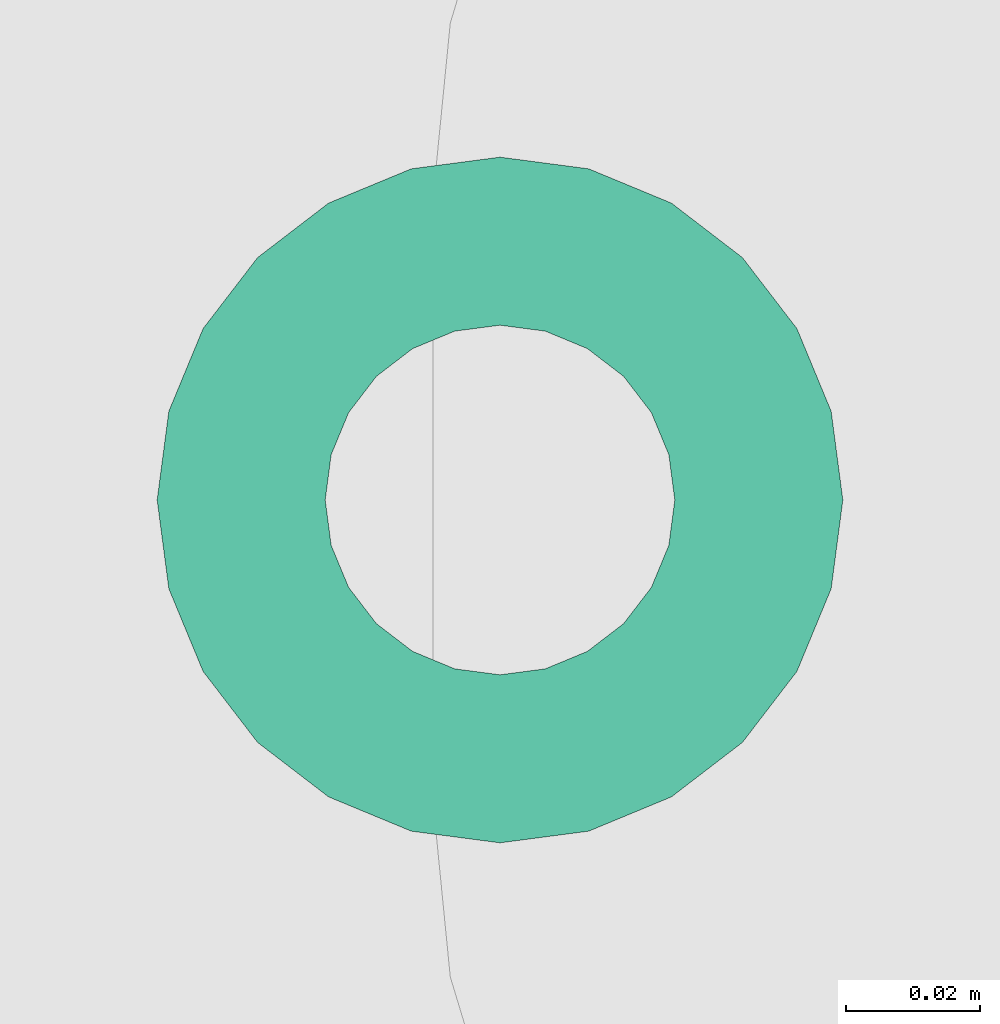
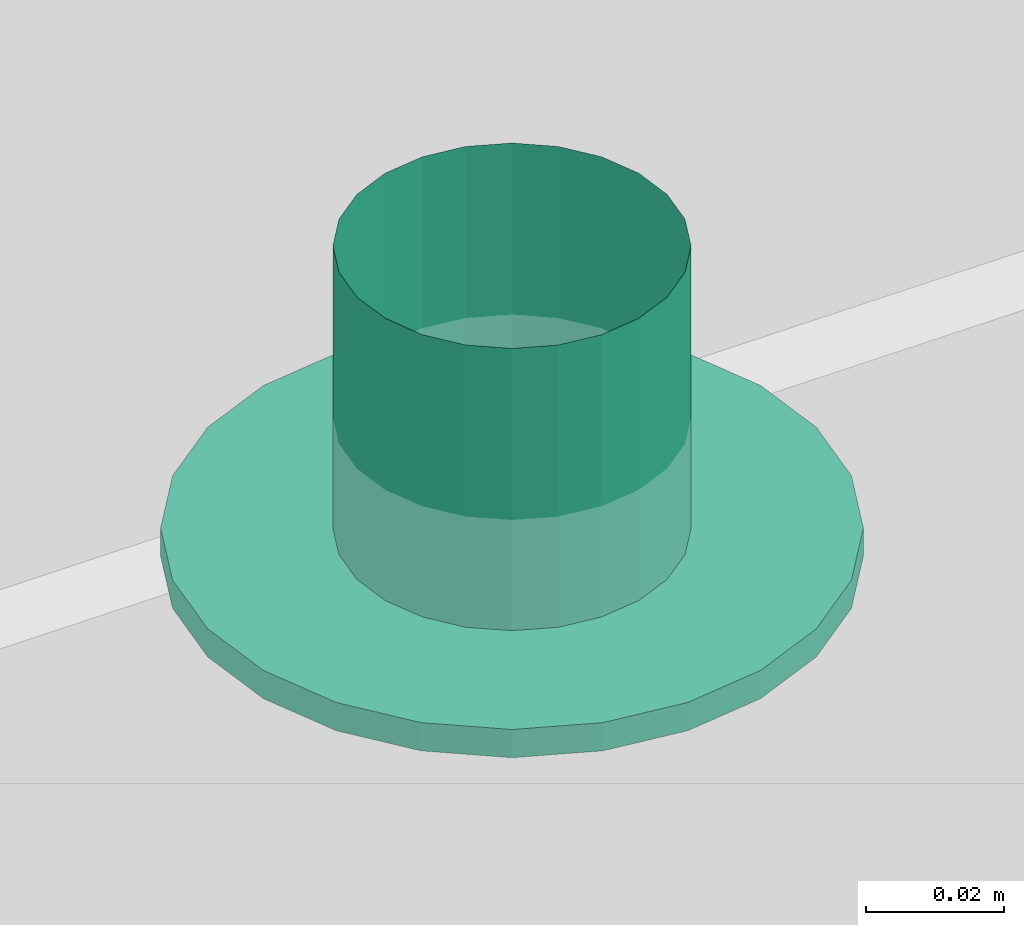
# One storey, part 261 of 347: 1 flow terminal.
"""IFC2X3 building model written with IfcOpenShell, lengths in millimetres."""

import ifcopenshell
import ifcopenshell.guid

model = None  # the IFC model being written
_history = None  # IfcOwnerHistory: only IFC2X3 demands one
_inside = {}  # id of a spatial element -> (the spatial element, [elements in it])
_under = {}  # id of a project, library or spatial element -> (it, [spatial elements below it])
_declared = {}  # id of a project -> (the project, [libraries it declares])
_typed = {}  # id of a type object -> (the type object, [elements of that type])
_made_of = {}  # id of a material, layer set ... -> (it, [elements and type objects made of it])


def new_model(schema):
    """Start an empty IFC model of exactly this schema.

    Asked for "IFC4X3", IfcOpenShell would pick the latest addendum, in which some entities
    have other attributes; the version numbers below select the first issue.
    IFC2X3 requires an IfcOwnerHistory on every rooted entity: one is made here for all.
    """
    global model, _history
    if schema == "IFC4X3":
        model = ifcopenshell.file(schema_version=(4, 3, 0, 0))
    else:
        model = ifcopenshell.file(schema=schema)
    _inside.clear()
    _under.clear()
    _declared.clear()
    _typed.clear()
    _made_of.clear()
    _history = None
    if model.schema == "IFC2X3":
        org = make("IfcOrganization", Name="unknown")
        user = make(
            "IfcPersonAndOrganization",
            ThePerson=make("IfcPerson", FamilyName="unknown"),
            TheOrganization=org,
        )
        app = make(
            "IfcApplication",
            ApplicationDeveloper=org,
            Version="unknown",
            ApplicationFullName="unknown",
            ApplicationIdentifier="unknown",
        )
        _history = make(
            "IfcOwnerHistory",
            OwningUser=user,
            OwningApplication=app,
            ChangeAction="ADDED",
            CreationDate=0,
        )
    return model


def make(cls, **values):
    """One entity of the class cls with the attributes given. An attribute that is None is left unset."""
    return model.create_entity(
        cls, **{name: value for name, value in values.items() if value is not None}
    )


def entity(cls, *values):
    """Any entity or typed value of the class cls, its attributes in the order of the schema. None: left unset."""
    e = model.create_entity(cls)
    for i, value in enumerate(values):
        if value is not None:
            e[i] = value
    return e


def rooted(cls, **values):
    """An entity with a GlobalId (a new one), such as an element, a storey or a relation."""
    return make(cls, GlobalId=ifcopenshell.guid.new(), OwnerHistory=_history, **values)


def si_unit(unit_type, name, prefix=None):
    """IfcSIUnit, for example si_unit("LENGTHUNIT", "METRE", prefix="MILLI")."""
    return make("IfcSIUnit", UnitType=unit_type, Prefix=prefix, Name=name)


def converted_unit(unit_type, name, factor, base, dimensions=None, offset=None):
    """IfcConversionBasedUnit, such as the inch: factor (a typed value) times the base unit."""
    return make(
        "IfcConversionBasedUnit"
        if offset is None
        else "IfcConversionBasedUnitWithOffset",
        ConversionOffset=offset,
        Dimensions=None
        if dimensions is None
        else entity("IfcDimensionalExponents", *dimensions),
        UnitType=unit_type,
        Name=name,
        ConversionFactor=make(
            "IfcMeasureWithUnit", ValueComponent=factor, UnitComponent=base
        ),
    )


def derived_unit(unit_type, elements):
    """IfcDerivedUnit: a product of units, each with its exponent."""
    return make(
        "IfcDerivedUnit",
        Elements=[
            make("IfcDerivedUnitElement", Unit=unit, Exponent=power)
            for unit, power in elements
        ],
        UnitType=unit_type,
    )


def money_unit(currency):
    """IfcMonetaryUnit."""
    return make("IfcMonetaryUnit", Currency=currency)


def assignment(units):
    """IfcUnitAssignment: the units of a project."""
    return None if units is None else make("IfcUnitAssignment", Units=units)


def point(xyz):
    """IfcCartesianPoint."""
    return None if xyz is None else make("IfcCartesianPoint", Coordinates=xyz)


def direction(xyz):
    """IfcDirection."""
    return None if xyz is None else make("IfcDirection", DirectionRatios=xyz)


def frame(location, z_axis=None, x_axis=None):
    """IfcAxis2Placement3D, a coordinate frame: its origin and axes. An axis left out is left unset."""
    return make(
        "IfcAxis2Placement3D",
        Location=point(location),
        Axis=direction(z_axis),
        RefDirection=direction(x_axis),
    )


def origin_with_axes():
    """The frame at (0, 0, 0) with the z axis (0, 0, 1) and the x axis (1, 0, 0) written out."""
    return frame((0.0, 0.0, 0.0), z_axis=(0.0, 0.0, 1.0), x_axis=(1.0, 0.0, 0.0))


def place(relative_to, where):
    """IfcLocalPlacement: puts the frame where relative to a parent placement (None: the world)."""
    return make(
        "IfcLocalPlacement", PlacementRelTo=relative_to, RelativePlacement=where
    )


def context(
    kind, dimensions, precision=None, world=None, true_north=None, identifier=None
):
    """IfcGeometricRepresentationContext, for example the 3D "Model" context."""
    return make(
        "IfcGeometricRepresentationContext",
        ContextIdentifier=identifier,
        ContextType=kind,
        CoordinateSpaceDimension=dimensions,
        Precision=precision,
        WorldCoordinateSystem=world,
        TrueNorth=true_north,
    )


def subcontext(parent, identifier, kind, view, scale=None):
    """IfcGeometricRepresentationSubContext, for example "Body" below "Model"."""
    return make(
        "IfcGeometricRepresentationSubContext",
        ContextIdentifier=identifier,
        ContextType=kind,
        ParentContext=parent,
        TargetScale=scale,
        TargetView=view,
    )


def project(units=None, contexts=None):
    """IfcProject with its units and contexts."""
    return rooted(
        "IfcProject",
        Name="project",
        RepresentationContexts=contexts,
        UnitsInContext=assignment(units),
    )


def spatial(cls, under=None, at=None, **own):
    """A site, building, storey or space (cls), placed at a placement, below another one or the project."""
    s = rooted(cls, ObjectPlacement=at, **own)
    if under is not None:
        _under.setdefault(under.id(), (under, []))[1].append(s)
    return s


def faces_of(points, faces, orient=None, outer=None):
    """IfcFace entities. A face is a list of loops; a loop is a list of indices into points, from 0.

    orient and outer hold one flag for each loop. By default every Orientation is true, the
    first loop of a face is its IfcFaceOuterBound and the others are IfcFaceBound.
    """
    made = []
    for i, loops in enumerate(faces):
        bounds = []
        for j, loop in enumerate(loops):
            is_outer = j == 0 if outer is None else outer[i][j]
            bounds.append(
                make(
                    "IfcFaceOuterBound" if is_outer else "IfcFaceBound",
                    Bound=make("IfcPolyLoop", Polygon=[points[k] for k in loop]),
                    Orientation=True if orient is None else orient[i][j],
                )
            )
        made.append(make("IfcFace", Bounds=bounds))
    return made


def open_shell(faces, orient=None, outer=None):
    """The faces of one IfcOpenShell. surface_model builds it on its shared points."""
    return ("IfcOpenShell", faces, orient, outer)


def faceted_brep(points, faces, orient=None, outer=None, voids=None):
    """IfcFacetedBrep: a solid bounded by flat faces; with voids (closed shells), ...WithVoids."""
    shared = [point(p) for p in points]
    hull = make("IfcClosedShell", CfsFaces=faces_of(shared, faces, orient, outer))
    if voids is None:
        return make("IfcFacetedBrep", Outer=hull)
    return make(
        "IfcFacetedBrepWithVoids",
        Outer=hull,
        Voids=[
            make(cls, CfsFaces=faces_of(shared, fs, o, b)) for cls, fs, o, b in voids
        ],
    )


def surface_model(cls, points, shells):
    """IfcFaceBasedSurfaceModel or IfcShellBasedSurfaceModel (cls): surfaces that need not close."""
    shared = [point(p) for p in points]
    made = [make(c, CfsFaces=faces_of(shared, fs, o, b)) for c, fs, o, b in shells]
    if cls == "IfcFaceBasedSurfaceModel":
        return make(cls, FbsmFaces=made)
    return make(cls, SbsmBoundary=made)


def shape(context_of_items, identifier, shape_type, items):
    """IfcShapeRepresentation: the items that make up one representation, for example the "Body"."""
    return make(
        "IfcShapeRepresentation",
        ContextOfItems=context_of_items,
        RepresentationIdentifier=identifier,
        RepresentationType=shape_type,
        Items=items,
    )


def source(mapping_origin, context_of_items, identifier, shape_type, items):
    """IfcRepresentationMap: a shape defined once, which mapped items show again and again."""
    return make(
        "IfcRepresentationMap",
        MappingOrigin=mapping_origin,
        MappedRepresentation=shape(context_of_items, identifier, shape_type, items),
    )


def transform(
    local_origin,
    x_axis=None,
    y_axis=None,
    z_axis=None,
    scale=None,
    scale2=None,
    scale3=None,
    uniform=True,
):
    """IfcCartesianTransformationOperator3D, or its non-uniform kind. x_axis, y_axis, z_axis: its Axis1, 2, 3."""
    if uniform:
        return make(
            "IfcCartesianTransformationOperator3D",
            Axis1=direction(x_axis),
            Axis2=direction(y_axis),
            LocalOrigin=point(local_origin),
            Scale=scale,
            Axis3=direction(z_axis),
        )
    return make(
        "IfcCartesianTransformationOperator3DnonUniform",
        Axis1=direction(x_axis),
        Axis2=direction(y_axis),
        LocalOrigin=point(local_origin),
        Scale=scale,
        Axis3=direction(z_axis),
        Scale2=scale2,
        Scale3=scale3,
    )


def mapped(mapping_source, mapping_target):
    """IfcMappedItem: shows the shape of a source again, moved by a transform."""
    return make(
        "IfcMappedItem", MappingSource=mapping_source, MappingTarget=mapping_target
    )


def made_of(thing, what):
    """Note that an element or type object is made of a material, layer set ...; save() writes the relation."""
    if what is not None:
        _made_of.setdefault(what.id(), (what, []))[1].append(thing)
    return thing


def type_object(cls, material=None, **own):
    """A type object (cls), such as IfcWallType, which elements share."""
    return made_of(rooted(cls, **own), material)


def type_shapes(of_type, sources):
    """Give a type object the sources (RepresentationMaps) that its elements show as mapped items."""
    of_type.RepresentationMaps = sources


def element(
    cls,
    number,
    at=None,
    inside=None,
    cuts=None,
    type_object=None,
    material=None,
    context=None,
    identifier="Body",
    shape_type=None,
    held_by="IfcProductDefinitionShape",
    body=None,
    shapes=None,
    **own,
):
    """One element of the class cls, such as IfcWall. Its Tag is "e" and its number.

    at: its placement. inside: the storey or other place that contains it. cuts: it is an
    opening in that element (IfcRelVoidsElement). A single representation is given by context,
    identifier, shape_type and body (its items); several are given by shapes. held_by: the class
    of the entity that holds the representations. save() writes the other relations.
    """
    e = rooted(cls, Tag="e%d" % number, ObjectPlacement=at, **own)
    if body is not None:
        shapes = [shape(context, identifier, shape_type, body)]
    if shapes is not None:
        e.Representation = make(held_by, Representations=shapes)
    if inside is not None:
        _inside.setdefault(inside.id(), (inside, []))[1].append(e)
    if cuts is not None:
        rooted(
            "IfcRelVoidsElement", RelatingBuildingElement=cuts, RelatedOpeningElement=e
        )
    if type_object is not None:
        _typed.setdefault(type_object.id(), (type_object, []))[1].append(e)
    return made_of(e, material)


def aggregate(whole, parts):
    """IfcRelAggregates: a whole, such as a stair, and the parts it consists of."""
    return rooted("IfcRelAggregates", RelatingObject=whole, RelatedObjects=parts)


def save(model, path):
    """Write the relations noted so far, then the file.

    IfcRelAggregates (storeys below a building ...), IfcRelContainedInSpatialStructure (elements
    in a storey), IfcRelDefinesByType, IfcRelAssociatesMaterial and IfcRelDeclares: one each for
    every whole, place, type object, material and project.
    """
    for whole, parts in _under.values():
        aggregate(whole, parts)
    for where, things in _inside.values():
        rooted(
            "IfcRelContainedInSpatialStructure",
            RelatedElements=things,
            RelatingStructure=where,
        )
    for kind, things in _typed.values():
        rooted("IfcRelDefinesByType", RelatedObjects=things, RelatingType=kind)
    for what, things in _made_of.values():
        rooted("IfcRelAssociatesMaterial", RelatedObjects=things, RelatingMaterial=what)
    for by, libraries in _declared.values():
        rooted("IfcRelDeclares", RelatingContext=by, RelatedDefinitions=libraries)
    model.write(path)


model = new_model("IFC2X3")

# Units and contexts
model_context = context("Model", 3, precision=0.01, world=origin_with_axes(), true_north=direction((0.0, 1.0)))
plan_context = context("Plan", 3, precision=0.01, world=origin_with_axes(), true_north=direction((0.0, 1.0)))
body_context = subcontext(model_context, "Body", "Model", "MODEL_VIEW")
ifc_project = project(units=[si_unit("LENGTHUNIT", "METRE", prefix="MILLI"), si_unit("AREAUNIT", "SQUARE_METRE"), si_unit("VOLUMEUNIT", "CUBIC_METRE"), converted_unit("PLANEANGLEUNIT", "DEGREE", entity("IfcPlaneAngleMeasure", 0.0174532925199), si_unit("PLANEANGLEUNIT", "RADIAN"), dimensions=[0, 0, 0, 0, 0, 0, 0]), money_unit("EUR"), converted_unit("TIMEUNIT", "Year", entity("IfcTimeMeasure", 31556926.0), si_unit("TIMEUNIT", "SECOND"), dimensions=[0, 0, 1, 0, 0, 0, 0]), si_unit("MASSUNIT", "GRAM", prefix="KILO"), si_unit("THERMODYNAMICTEMPERATUREUNIT", "DEGREE_CELSIUS"), si_unit("LUMINOUSINTENSITYUNIT", "LUMEN"), si_unit("ENERGYUNIT", "JOULE", prefix="MEGA"), derived_unit("THERMALCONDUCTANCEUNIT", [(si_unit("POWERUNIT", "WATT"), 1), (si_unit("LENGTHUNIT", "METRE"), -1), (si_unit("THERMODYNAMICTEMPERATUREUNIT", "KELVIN"), -1)]), derived_unit("SPECIFICHEATCAPACITYUNIT", [(si_unit("ENERGYUNIT", "JOULE"), 1), (si_unit("MASSUNIT", "GRAM", prefix="KILO"), -1), (si_unit("THERMODYNAMICTEMPERATUREUNIT", "KELVIN"), -1)]), derived_unit("MASSDENSITYUNIT", [(si_unit("MASSUNIT", "GRAM", prefix="KILO"), 1), (si_unit("VOLUMEUNIT", "CUBIC_METRE"), -1)])], contexts=[model_context, plan_context])

# Site, building, storey
site_placement = place(None, origin_with_axes())
site = spatial("IfcSite", under=ifc_project, at=site_placement, Name="Site", CompositionType="ELEMENT")
building_placement = place(site_placement, origin_with_axes())
building = spatial("IfcBuilding", under=site, at=building_placement, Name="Naam gebouw", CompositionType="ELEMENT")
storey_placement = place(building_placement, origin_with_axes())
storey = spatial("IfcBuildingStorey", under=building, at=storey_placement, Name="begane grond", CompositionType="ELEMENT", Elevation=0.0)

# Flow terminal
air_terminal_type = type_object("IfcAirTerminalType", Name="Rooster plafond rond 25", PredefinedType="GRILLE")
shared_shape = source(origin_with_axes(), body_context, "Body", "SurfaceModel", [
    faceted_brep([(51.0, 0.0, -5.0), (49.2622171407, 13.1997713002, -5.0), (49.2622171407, 13.1997713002, 0.0), (51.0, 0.0, 0.0), (49.2622171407, -13.1997713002, -5.0), (44.167295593, -25.5, -5.0), (36.0624458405, -36.0624458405, -5.0), (25.5, -44.167295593, -5.0), (13.1997713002, -49.2622171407, -5.0), (0.0, -51.0, -5.0), (-13.1997713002, -49.2622171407, -5.0), (-25.5, -44.167295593, -5.0), (-36.0624458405, -36.0624458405, -5.0), (-44.167295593, -25.5, -5.0), (-49.2622171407, -13.1997713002, -5.0), (-51.0, 0.0, -5.0), (-49.2622171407, 13.1997713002, -5.0), (-44.167295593, 25.5, -5.0), (-36.0624458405, 36.0624458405, -5.0), (-25.5, 44.167295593, -5.0), (-13.1997713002, 49.2622171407, -5.0), (0.0, 51.0, -5.0), (13.1997713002, 49.2622171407, -5.0), (25.5, 44.167295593, -5.0), (36.0624458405, 36.0624458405, -5.0), (44.167295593, 25.5, -5.0), (26.0, 0.0, -5.0), (25.1140714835, 6.72929517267, -5.0), (22.5166604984, 13.0, -5.0), (18.3847763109, 18.3847763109, -5.0), (13.0, 22.5166604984, -5.0), (6.72929517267, 25.1140714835, -5.0), (0.0, 26.0, -5.0), (-6.72929517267, 25.1140714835, -5.0), (-13.0, 22.5166604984, -5.0), (-18.3847763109, 18.3847763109, -5.0), (-22.5166604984, 13.0, -5.0), (-25.1140714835, 6.72929517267, -5.0), (-26.0, 0.0, -5.0), (-25.1140714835, -6.72929517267, -5.0), (-22.5166604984, -13.0, -5.0), (-18.3847763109, -18.3847763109, -5.0), (-13.0, -22.5166604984, -5.0), (-6.72929517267, -25.1140714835, -5.0), (0.0, -26.0, -5.0), (6.72929517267, -25.1140714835, -5.0), (13.0, -22.5166604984, -5.0), (18.3847763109, -18.3847763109, -5.0), (22.5166604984, -13.0, -5.0), (25.1140714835, -6.72929517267, -5.0), (44.167295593, 25.5, 0.0), (36.0624458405, 36.0624458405, 0.0), (25.5, 44.167295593, 0.0), (13.1997713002, 49.2622171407, 0.0), (0.0, 51.0, 0.0), (-13.1997713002, 49.2622171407, 0.0), (-25.5, 44.167295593, 0.0), (-36.0624458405, 36.0624458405, 0.0), (-44.167295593, 25.5, 0.0), (-49.2622171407, 13.1997713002, 0.0), (-51.0, 0.0, 0.0), (-49.2622171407, -13.1997713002, 0.0), (-44.167295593, -25.5, 0.0), (-36.0624458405, -36.0624458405, 0.0), (-25.5, -44.167295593, 0.0), (-13.1997713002, -49.2622171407, 0.0), (0.0, -51.0, 0.0), (13.1997713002, -49.2622171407, 0.0), (25.5, -44.167295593, 0.0), (36.0624458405, -36.0624458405, 0.0), (44.167295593, -25.5, 0.0), (49.2622171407, -13.1997713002, 0.0), (26.0, 0.0, 0.0), (25.1140714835, -6.72929517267, 0.0), (22.5166604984, -13.0, 0.0), (18.3847763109, -18.3847763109, 0.0), (13.0, -22.5166604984, 0.0), (6.72929517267, -25.1140714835, 0.0), (0.0, -26.0, 0.0), (-6.72929517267, -25.1140714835, 0.0), (-13.0, -22.5166604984, 0.0), (-18.3847763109, -18.3847763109, 0.0), (-22.5166604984, -13.0, 0.0), (-25.1140714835, -6.72929517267, 0.0), (-26.0, 0.0, 0.0), (-25.1140714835, 6.72929517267, 0.0), (-22.5166604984, 13.0, 0.0), (-18.3847763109, 18.3847763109, 0.0), (-13.0, 22.5166604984, 0.0), (-6.72929517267, 25.1140714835, 0.0), (0.0, 26.0, 0.0), (6.72929517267, 25.1140714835, 0.0), (13.0, 22.5166604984, 0.0), (18.3847763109, 18.3847763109, 0.0), (22.5166604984, 13.0, 0.0), (25.1140714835, 6.72929517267, 0.0)], [[[0, 1, 2, 3]], [[0, 4, 5, 6, 7, 8, 9, 10, 11, 12, 13, 14, 15, 16, 17, 18, 19, 20, 21, 22, 23, 24, 25, 1], [26, 27, 28, 29, 30, 31, 32, 33, 34, 35, 36, 37, 38, 39, 40, 41, 42, 43, 44, 45, 46, 47, 48, 49]], [[1, 25, 50, 2]], [[3, 2, 50, 51, 52, 53, 54, 55, 56, 57, 58, 59, 60, 61, 62, 63, 64, 65, 66, 67, 68, 69, 70, 71], [72, 73, 74, 75, 76, 77, 78, 79, 80, 81, 82, 83, 84, 85, 86, 87, 88, 89, 90, 91, 92, 93, 94, 95]], [[4, 0, 3, 71]], [[5, 4, 71, 70]], [[6, 5, 70, 69]], [[7, 6, 69, 68]], [[8, 7, 68, 67]], [[9, 8, 67, 66]], [[10, 9, 66, 65]], [[11, 10, 65, 64]], [[12, 11, 64, 63]], [[13, 12, 63, 62]], [[14, 13, 62, 61]], [[15, 14, 61, 60]], [[16, 15, 60, 59]], [[17, 16, 59, 58]], [[18, 17, 58, 57]], [[19, 18, 57, 56]], [[20, 19, 56, 55]], [[21, 20, 55, 54]], [[22, 21, 54, 53]], [[23, 22, 53, 52]], [[24, 23, 52, 51]], [[25, 24, 51, 50]], [[27, 26, 72, 95]], [[28, 27, 95, 94]], [[29, 28, 94, 93]], [[30, 29, 93, 92]], [[31, 30, 92, 91]], [[32, 31, 91, 90]], [[33, 32, 90, 89]], [[34, 33, 89, 88]], [[35, 34, 88, 87]], [[36, 35, 87, 86]], [[37, 36, 86, 85]], [[38, 37, 85, 84]], [[39, 38, 84, 83]], [[40, 39, 83, 82]], [[41, 40, 82, 81]], [[42, 41, 81, 80]], [[43, 42, 80, 79]], [[44, 43, 79, 78]], [[45, 44, 78, 77]], [[46, 45, 77, 76]], [[47, 46, 76, 75]], [[48, 47, 75, 74]], [[49, 48, 74, 73]], [[26, 49, 73, 72]]]),
    surface_model("IfcShellBasedSurfaceModel", [(0.0, -26.0, 0.0), (6.72929517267, -25.1140714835, 0.0), (6.72929517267, -25.1140714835, 50.0), (0.0, -26.0, 50.0), (13.0, -22.5166604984, 0.0), (13.0, -22.5166604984, 50.0), (-6.72929517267, -25.1140714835, 0.0), (-6.72929517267, -25.1140714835, 50.0), (18.3847763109, -18.3847763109, 0.0), (18.3847763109, -18.3847763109, 50.0), (-13.0, -22.5166604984, 0.0), (-13.0, -22.5166604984, 50.0), (22.5166604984, -13.0, 0.0), (22.5166604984, -13.0, 50.0), (-18.3847763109, -18.3847763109, 0.0), (-18.3847763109, -18.3847763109, 50.0), (25.1140714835, -6.72929517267, 0.0), (25.1140714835, -6.72929517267, 50.0), (-22.5166604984, -13.0, 0.0), (-22.5166604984, -13.0, 50.0), (26.0, 0.0, 0.0), (26.0, 0.0, 50.0), (-25.1140714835, -6.72929517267, 0.0), (-25.1140714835, -6.72929517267, 50.0), (25.1140714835, 6.72929517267, 0.0), (25.1140714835, 6.72929517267, 50.0), (-26.0, 0.0, 0.0), (-26.0, 0.0, 50.0), (22.5166604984, 13.0, 0.0), (22.5166604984, 13.0, 50.0), (-25.1140714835, 6.72929517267, 0.0), (-25.1140714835, 6.72929517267, 50.0), (18.3847763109, 18.3847763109, 0.0), (18.3847763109, 18.3847763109, 50.0), (-22.5166604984, 13.0, 0.0), (-22.5166604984, 13.0, 50.0), (13.0, 22.5166604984, 0.0), (13.0, 22.5166604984, 50.0), (-18.3847763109, 18.3847763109, 0.0), (-18.3847763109, 18.3847763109, 50.0), (6.72929517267, 25.1140714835, 0.0), (6.72929517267, 25.1140714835, 50.0), (-13.0, 22.5166604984, 0.0), (-13.0, 22.5166604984, 50.0), (0.0, 26.0, 0.0), (0.0, 26.0, 50.0), (-6.72929517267, 25.1140714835, 0.0), (-6.72929517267, 25.1140714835, 50.0)], [open_shell([[[0, 1, 2, 3]], [[1, 4, 5, 2]], [[6, 0, 3, 7]], [[4, 8, 9, 5]], [[10, 6, 7, 11]], [[8, 12, 13, 9]], [[14, 10, 11, 15]], [[12, 16, 17, 13]], [[18, 14, 15, 19]], [[16, 20, 21, 17]], [[22, 18, 19, 23]], [[20, 24, 25, 21]], [[26, 22, 23, 27]], [[24, 28, 29, 25]], [[30, 26, 27, 31]], [[28, 32, 33, 29]], [[34, 30, 31, 35]], [[32, 36, 37, 33]], [[38, 34, 35, 39]], [[36, 40, 41, 37]], [[42, 38, 39, 43]], [[40, 44, 45, 41]], [[46, 42, 43, 47]], [[44, 46, 47, 45]]])]),
])
type_shapes(air_terminal_type, [shared_shape])
flow_terminal_placement = place(storey_placement, frame((42110.000078, 32339.9999523, 2600.0), z_axis=(0.0, 0.0, 1.0), x_axis=(1.0, 0.0, 0.0)))
element("IfcFlowTerminal", 1, at=flow_terminal_placement, inside=storey, type_object=air_terminal_type, Name="57_78 garderobe", context=body_context, shape_type="MappedRepresentation", body=[
    mapped(shared_shape, transform((0.0, 0.0, 0.0))),
])

save(model, "model.ifc")
